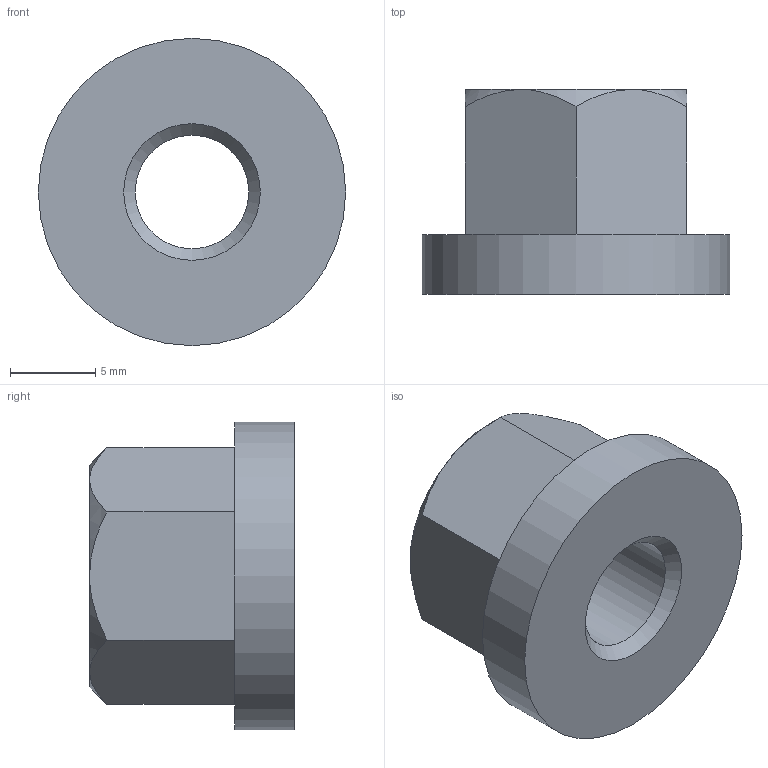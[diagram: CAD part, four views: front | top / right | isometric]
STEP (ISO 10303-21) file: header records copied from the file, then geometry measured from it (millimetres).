
FILE_DESCRIPTION( ( 'STEP AP203' ), '1' );
FILE_NAME( 'C:/Temp/Ganter_Step_05_03_2020/data/3_2/din6331/Hexagon nut DIN 6331-M8.stp', '2020-03-13T05:16:15', ( 'License CC BY-ND 4.0' ), ( 'CADENAS' ), ' ', 'PARTsolutions', ' ' );
FILE_SCHEMA( ( 'CONFIG_CONTROL_DESIGN' ) );
Length unit declared in the file: millimetre
Products named in the file (1): _Hexagon nut DIN 6331-M8
Bounding box: 18 x 12 x 18 mm (x, y, z)
Volume: 1703.9 mm3; surface area: 1245.6 mm2
Topology: 1 solids, 1 shells, 19 faces, 41 edges, 25 vertices
Faces by surface type: plane 9, cone 8, cylinder 2
Full cylindrical faces by diameter (mm): 6.647 x1, 18 x1
Entity records: 582 total; most frequent: CARTESIAN_POINT 156, DIRECTION 76, ORIENTED_EDGE 72, EDGE_CURVE 36, AXIS2_PLACEMENT_3D 32, EDGE_LOOP 26, VERTEX_POINT 24, FACE_OUTER_BOUND 21
